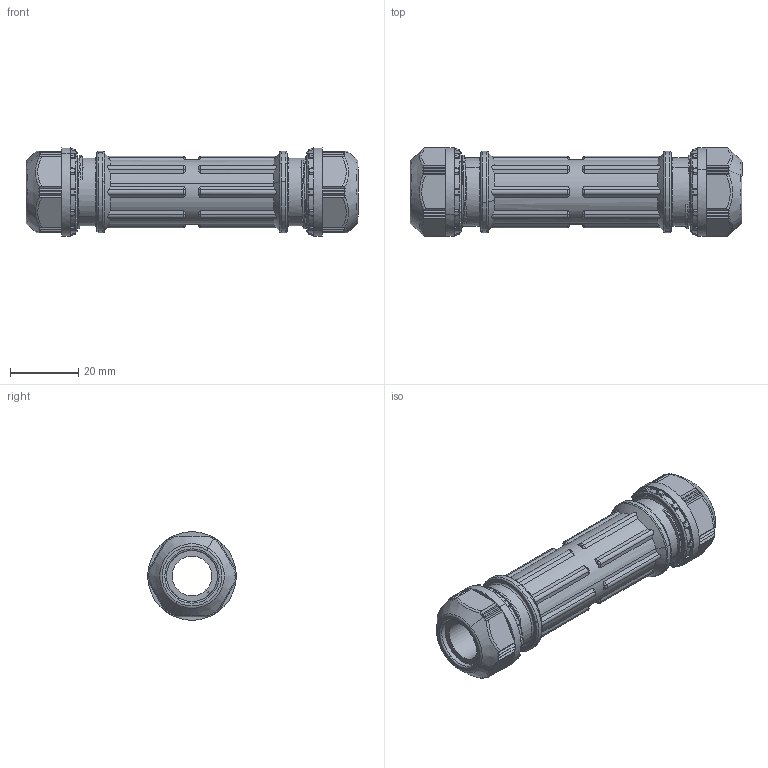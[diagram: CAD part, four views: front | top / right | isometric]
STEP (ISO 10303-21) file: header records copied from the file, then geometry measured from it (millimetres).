
FILE_DESCRIPTION(('Creo Elements/Direct Modeling STEP Export'),'2;1');
FILE_NAME('H16-0009-CL901-00_OA-QW11SRSN.stp','2016-09-29T16:28:36',(''),(''),'PTC Creo Elements/Direct Modeling STEP processor for AP214 (Solid Model)','PTC Creo Elements/Direct Modeling 19.0C 15-Aug-2015 (C) Parametric Technology GmbH','');
FILE_SCHEMA(('AUTOMOTIVE_DESIGN { 1 0 10303 214 1 1 1 1 }'));
Length unit declared in the file: millimetre
Products named in the file (4): OA-W16115_13L用_ゴムブッシュ_\X2\30B930EA
30C330C85165308A\X0\; G13-11RS; OA-QW13S_本体; OA-QW11SRSN
Assembly tree (4 placements, depth 3):
  OA-QW11SRSN
    G13-11RS  x2
      OA-W16115_13L用_ゴムブッシュ_\X2\30B930EA
30C330C85165308A\X0\
    OA-QW13S_本体
Bounding box: 97.63 x 26 x 26 mm (x, y, z)
Volume: 20972.7 mm3; surface area: 17252.9 mm2
Topology: 3 solids, 3 shells, 852 faces, 2162 edges, 1332 vertices
Faces by surface type: plane 336, bspline 208, cylinder 160, torus 112, cone 36
Entity records: 44199 total; most frequent: CARTESIAN_POINT 27903, ORIENTED_EDGE 4120, DIRECTION 2150, EDGE_CURVE 2060, VERTEX_POINT 1264, EDGE_LOOP 828, B_SPLINE_CURVE_WITH_KNOTS 824, FACE_OUTER_BOUND 813
